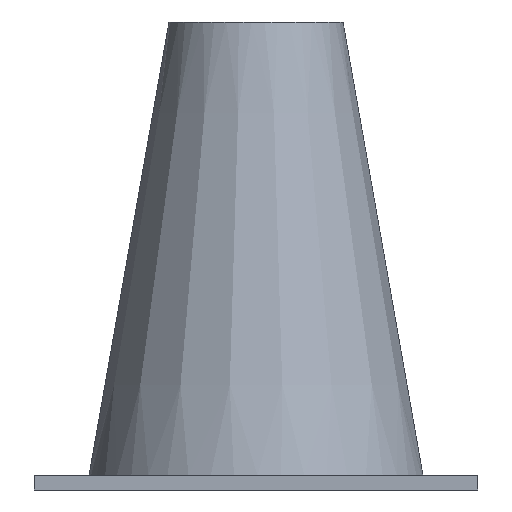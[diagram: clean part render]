
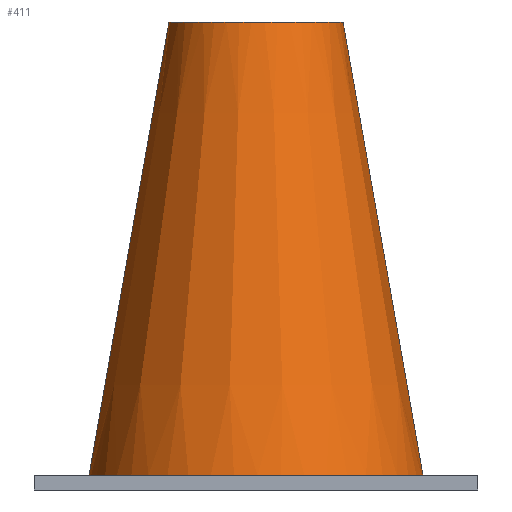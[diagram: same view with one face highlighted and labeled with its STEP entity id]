
A CAD part, front view. The second image highlights one B-rep face of the part: STEP entity #411.
In plain terms, the highlighted conical face has half-angle 10 degrees and reference radius 18.046 mm.
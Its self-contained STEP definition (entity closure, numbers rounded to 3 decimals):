
#284=CARTESIAN_POINT('Vertex',(27.954,56.,97.)) ;
#286=CARTESIAN_POINT('Vertex',(64.046,56.,97.)) ;
#290=CARTESIAN_POINT('Control Point',(27.954,56.,97.)) ;
#291=CARTESIAN_POINT('Control Point',(27.954,54.329,97.)) ;
#292=CARTESIAN_POINT('Control Point',(28.147,52.658,97.)) ;
#293=CARTESIAN_POINT('Control Point',(28.534,51.017,97.)) ;
#294=CARTESIAN_POINT('Control Point',(29.681,47.853,97.)) ;
#295=CARTESIAN_POINT('Control Point',(31.52,45.035,97.)) ;
#296=CARTESIAN_POINT('Control Point',(32.6,43.739,97.)) ;
#297=CARTESIAN_POINT('Control Point',(35.04,41.42,97.)) ;
#298=CARTESIAN_POINT('Control Point',(37.945,39.721,97.)) ;
#299=CARTESIAN_POINT('Control Point',(39.49,39.044,97.)) ;
#300=CARTESIAN_POINT('Control Point',(42.709,38.06,97.)) ;
#301=CARTESIAN_POINT('Control Point',(46.067,37.837,97.)) ;
#302=CARTESIAN_POINT('Control Point',(47.752,37.922,97.)) ;
#303=CARTESIAN_POINT('Control Point',(51.072,38.479,97.)) ;
#304=CARTESIAN_POINT('Control Point',(54.176,39.781,97.)) ;
#305=CARTESIAN_POINT('Control Point',(55.645,40.609,97.)) ;
#306=CARTESIAN_POINT('Control Point',(58.366,42.592,97.)) ;
#307=CARTESIAN_POINT('Control Point',(60.561,45.143,97.)) ;
#308=CARTESIAN_POINT('Control Point',(61.506,46.541,97.)) ;
#309=CARTESIAN_POINT('Control Point',(62.886,49.205,97.)) ;
#310=CARTESIAN_POINT('Control Point',(63.69,52.088,97.)) ;
#311=CARTESIAN_POINT('Control Point',(63.928,53.382,97.)) ;
#312=CARTESIAN_POINT('Control Point',(64.046,54.691,97.)) ;
#313=CARTESIAN_POINT('Control Point',(64.046,56.,97.)) ;
#351=CARTESIAN_POINT('Vertex',(80.621,56.,3.)) ;
#353=CARTESIAN_POINT('Vertex',(11.379,56.,3.)) ;
#357=CARTESIAN_POINT('Control Point',(80.621,56.,3.)) ;
#358=CARTESIAN_POINT('Control Point',(80.621,50.219,3.)) ;
#359=CARTESIAN_POINT('Control Point',(79.415,44.439,3.)) ;
#360=CARTESIAN_POINT('Control Point',(77.,38.994,3.)) ;
#361=CARTESIAN_POINT('Control Point',(70.049,29.443,3.)) ;
#362=CARTESIAN_POINT('Control Point',(59.859,23.471,3.)) ;
#363=CARTESIAN_POINT('Control Point',(54.201,21.606,3.)) ;
#364=CARTESIAN_POINT('Control Point',(42.456,20.348,3.)) ;
#365=CARTESIAN_POINT('Control Point',(31.189,23.893,3.)) ;
#366=CARTESIAN_POINT('Control Point',(26.008,26.836,3.)) ;
#367=CARTESIAN_POINT('Control Point',(18.239,33.765,3.)) ;
#368=CARTESIAN_POINT('Control Point',(13.485,42.923,3.)) ;
#369=CARTESIAN_POINT('Control Point',(12.081,47.183,3.)) ;
#370=CARTESIAN_POINT('Control Point',(11.379,51.591,3.)) ;
#371=CARTESIAN_POINT('Control Point',(11.379,56.,3.)) ;
#383=CARTESIAN_POINT('Line Origine',(19.666,56.,50.)) ;
#388=CARTESIAN_POINT('Line Origine',(72.334,56.,50.)) ;
#400=CARTESIAN_POINT('Axis2P3D Location',(46.,56.,97.)) ;
#384=DIRECTION('Vector Direction',(-0.174,0.,-0.985)) ;
#389=DIRECTION('Vector Direction',(0.174,0.,-0.985)) ;
#401=DIRECTION('Axis2P3D Direction',(-0.,-0.,-1.)) ;
#402=DIRECTION('Axis2P3D XDirection',(0.,1.,0.)) ;
#403=AXIS2_PLACEMENT_3D('Cone Axis2P3D',#400,#401,#402) ;
#406=ORIENTED_EDGE('',*,*,#314,.F.) ;
#407=ORIENTED_EDGE('',*,*,#387,.F.) ;
#408=ORIENTED_EDGE('',*,*,#372,.F.) ;
#409=ORIENTED_EDGE('',*,*,#392,.T.) ;
#385=VECTOR('Line Direction',#384,1.) ;
#390=VECTOR('Line Direction',#389,1.) ;
#411=ADVANCED_FACE('PartBody',(#410),#404,.T.) ;
#289=B_SPLINE_CURVE_WITH_KNOTS('',5,(#290,#291,#292,#293,#294,#295,#296,#297,#298,#299,#300,#301,#302,#303,#304,#305,#306,#307,#308,#309,#310,#311,#312,#313),.UNSPECIFIED.,.F.,.U.,(6,3,3,3,3,3,3,6),(0.,10.864,21.733,32.603,43.472,54.341,65.211,73.721),.UNSPECIFIED.) ;
#356=B_SPLINE_CURVE_WITH_KNOTS('',5,(#357,#358,#359,#360,#361,#362,#363,#364,#365,#366,#367,#368,#369,#370,#371),.UNSPECIFIED.,.F.,.U.,(6,3,3,3,6),(0.,31.5,63.004,94.508,118.532),.UNSPECIFIED.) ;
#404=CONICAL_SURFACE('Cone',#403,18.046,0.175) ;
#314=EDGE_CURVE('',#285,#287,#289,.T.) ;
#372=EDGE_CURVE('',#352,#354,#356,.T.) ;
#387=EDGE_CURVE('',#354,#285,#386,.F.) ;
#392=EDGE_CURVE('',#352,#287,#391,.F.) ;
#405=EDGE_LOOP('',(#406,#407,#408,#409)) ;
#410=FACE_OUTER_BOUND('',#405,.T.) ;
#386=LINE('Line',#383,#385) ;
#391=LINE('Line',#388,#390) ;
#285=VERTEX_POINT('',#284) ;
#287=VERTEX_POINT('',#286) ;
#352=VERTEX_POINT('',#351) ;
#354=VERTEX_POINT('',#353) ;
